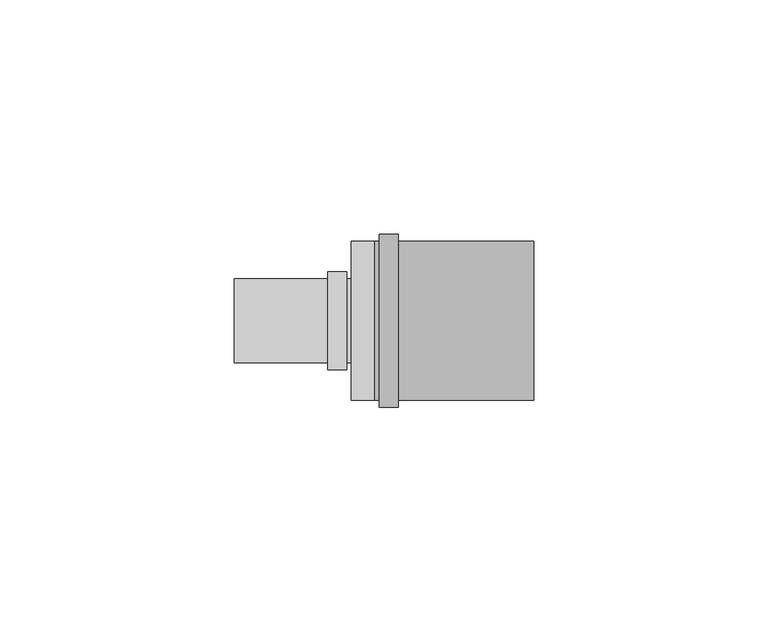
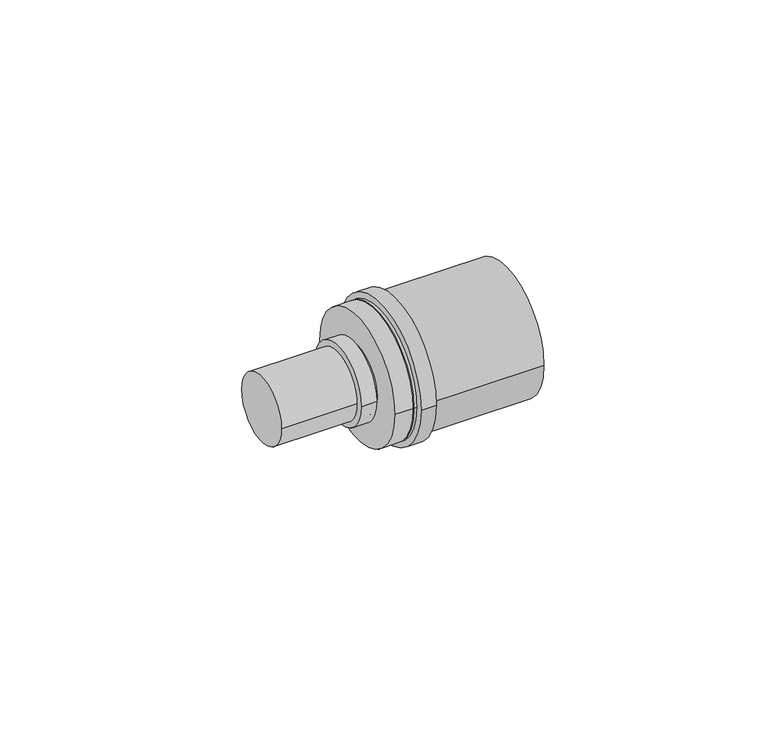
"""IFC4 building model written with IfcOpenShell, lengths in millimetres: pipe fitting geometry, COMAP - SKINPRESS ppsu - Manchon_Réduit_9240W : Manchon_Réduit_9240W."""

from ifc_helpers import new_model, si_unit, point, frame, origin, origin_2d, place, context, project, spatial, circle_curve, trimmed, segment, composite_curve, outline, extrude, source, transform, mapped, element, save


def pipe_fitting_12f90ac3(model_context):
    return source(origin(), model_context, "Body", "SweptSolid", [
        extrude(outline(composite_curve([segment(trimmed(circle_curve(origin_2d(), 10.5), [point((-10.5, 0.0))], [point((10.5, 0.0))], False, "CARTESIAN"), True, "CONTINUOUS"), segment(trimmed(circle_curve(origin_2d(), 10.5), [point((10.5, 0.0))], [point((-10.5, 0.0))], False, "CARTESIAN"), True, "CONTINUOUS")], self_intersect=False)), frame((-10.0, 0.0, 0.0), z_axis=(1.0, 0.0, 0.0), x_axis=(0.0, 1.0, 0.0)), (0.0, 0.0, 1.0), 4.0),
        extrude(outline(composite_curve([segment(trimmed(circle_curve(origin_2d(), 9.0), [point((-9.0, 0.0))], [point((9.0, 0.0))], False, "CARTESIAN"), True, "CONTINUOUS"), segment(trimmed(circle_curve(origin_2d(), 9.0), [point((9.0, 0.0))], [point((-9.0, 0.0))], False, "CARTESIAN"), True, "CONTINUOUS")], self_intersect=False)), frame((-30.0, 0.0, 0.0), z_axis=(1.0, 0.0, 0.0), x_axis=(0.0, 1.0, 0.0)), (0.0, 0.0, 1.0), 25.0),
        extrude(outline(composite_curve([segment(trimmed(circle_curve(origin_2d(), 18.5), [point((18.5, 0.0))], [point((-18.5, 0.0))], False, "CARTESIAN"), True, "CONTINUOUS"), segment(trimmed(circle_curve(origin_2d(), 18.5), [point((-18.5, 0.0))], [point((18.5, 0.0))], False, "CARTESIAN"), True, "CONTINUOUS")], self_intersect=False)), frame((1.0, 0.0, 0.0), z_axis=(1.0, 0.0, 0.0), x_axis=(0.0, 1.0, 0.0)), (0.0, 0.0, 1.0), 4.0),
        extrude(outline(composite_curve([segment(trimmed(circle_curve(origin_2d(), 17.0), [point((17.0, 0.0))], [point((-17.0, 0.0))], False, "CARTESIAN"), True, "CONTINUOUS"), segment(trimmed(circle_curve(origin_2d(), 17.0), [point((-17.0, 0.0))], [point((17.0, 0.0))], False, "CARTESIAN"), True, "CONTINUOUS")], self_intersect=False)), frame((0.0, 0.0, 0.0), z_axis=(1.0, 0.0, 0.0), x_axis=(0.0, 1.0, 0.0)), (0.0, 0.0, 1.0), 34.0),
        extrude(outline(composite_curve([segment(trimmed(circle_curve(origin_2d(), 17.0), [point((-17.0, 0.0))], [point((17.0, 0.0))], False, "CARTESIAN"), True, "CONTINUOUS"), segment(trimmed(circle_curve(origin_2d(), 17.0), [point((17.0, 0.0))], [point((-17.0, 0.0))], False, "CARTESIAN"), True, "CONTINUOUS")], self_intersect=False)), frame((-5.0, 0.0, 0.0), z_axis=(1.0, 0.0, 0.0), x_axis=(0.0, 1.0, 0.0)), (0.0, 0.0, 1.0), 5.0),
    ])


if __name__ == "__main__":
    model = new_model("IFC4")
    model_context = context("Model", 3, world=origin())
    ifc_project = project(units=[si_unit("LENGTHUNIT", "METRE", prefix="MILLI")], contexts=[model_context])
    site = spatial("IfcSite", under=ifc_project)
    building = spatial("IfcBuilding", under=site)
    placement = place(None, origin())
    pipe_fitting_shape = pipe_fitting_12f90ac3(model_context)
    element("IfcPipeFitting", 1, ObjectType="COMAP - SKINPRESS ppsu - Manchon_Réduit_9240W : Manchon_Réduit_9240W", at=placement, inside=building, context=model_context, shape_type="MappedRepresentation", body=[
        mapped(pipe_fitting_shape, transform((0.0, 0.0, 0.0), x_axis=(1.0, 0.0, 0.0), y_axis=(0.0, 1.0, 0.0), z_axis=(0.0, 0.0, 1.0))),
    ])
    save(model, "model.ifc")
